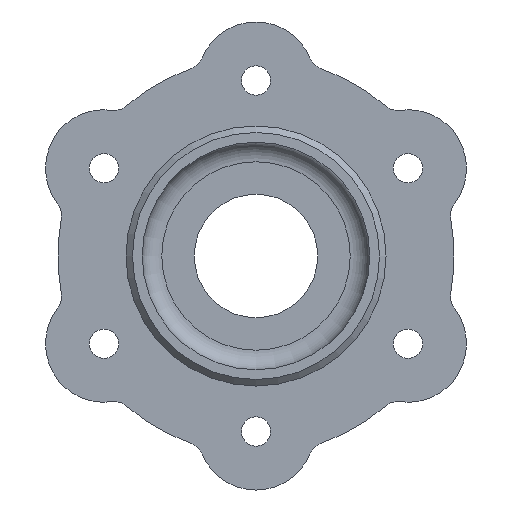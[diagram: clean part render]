
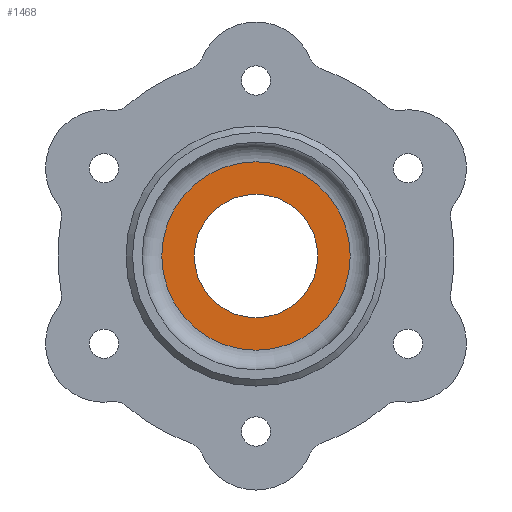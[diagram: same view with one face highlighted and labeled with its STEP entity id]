
A CAD part, left-side view. The second image highlights one B-rep face of the part: STEP entity #1468.
In plain terms, the highlighted planar face has unit normal (-1, 0, 0).
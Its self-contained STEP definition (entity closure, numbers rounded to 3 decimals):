
#116=FACE_BOUND('',#317,.T.);
#134=PLANE('',#1735);
#218=FACE_OUTER_BOUND('',#316,.T.);
#316=EDGE_LOOP('',(#1332));
#317=EDGE_LOOP('',(#1333));
#571=CIRCLE('',#1734,9.5);
#572=CIRCLE('',#1736,14.5);
#713=VERTEX_POINT('',#2884);
#714=VERTEX_POINT('',#2888);
#932=EDGE_CURVE('',#713,#713,#571,.T.);
#933=EDGE_CURVE('',#714,#714,#572,.T.);
#1332=ORIENTED_EDGE('',*,*,#933,.F.);
#1333=ORIENTED_EDGE('',*,*,#932,.T.);
#1468=ADVANCED_FACE('',(#218,#116),#134,.T.);
#1734=AXIS2_PLACEMENT_3D('',#2886,#2264,#2265);
#1735=AXIS2_PLACEMENT_3D('',#2887,#2266,#2267);
#1736=AXIS2_PLACEMENT_3D('',#2889,#2268,#2269);
#2264=DIRECTION('center_axis',(1.,0.,0.));
#2265=DIRECTION('ref_axis',(0.,0.,-1.));
#2266=DIRECTION('center_axis',(-1.,0.,0.));
#2267=DIRECTION('ref_axis',(0.,0.,1.));
#2268=DIRECTION('center_axis',(1.,0.,0.));
#2269=DIRECTION('ref_axis',(0.,0.,-1.));
#2884=CARTESIAN_POINT('',(5.,-9.5,0.));
#2886=CARTESIAN_POINT('Origin',(5.,0.,0.));
#2887=CARTESIAN_POINT('Origin',(5.,14.5,0.));
#2888=CARTESIAN_POINT('',(5.,0.,14.5));
#2889=CARTESIAN_POINT('Origin',(5.,0.,0.));
